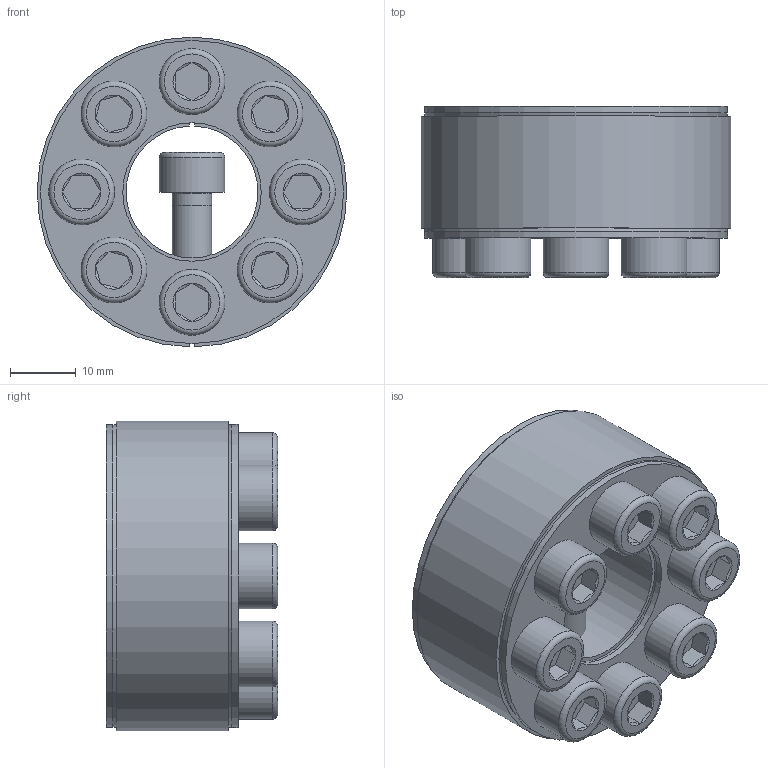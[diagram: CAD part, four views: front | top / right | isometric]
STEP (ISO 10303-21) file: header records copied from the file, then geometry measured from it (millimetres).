
FILE_DESCRIPTION( ( 'Unknown' ), '1' );
FILE_NAME( 'C:/Dokumente und Einstellungen/Sven/Desktop/homepage/cad - homepage/KBS40/KBS 40 - 20 x 47.stp', 'Unknown', ( 'Unknown' ), ( 'Unknown' ), 'XStep 1.0', 'Unknown', ' ' );
FILE_SCHEMA( ( 'automotive_design' ) );
Length unit declared in the file: millimetre
Products named in the file (10): Assem1; KBS 40 20x47; ISO 4762 M6x18; ISO 4762 M6x18-oa0; ISO 4762 M6x18-oa1; ISO 4762 M6x18-oa2; ISO 4762 M6x18-oa3; ISO 4762 M6x18-oa4; ISO 4762 M6x18-oa5; ISO 4762 M6x18-oa6
Bounding box: 47 x 26 x 47 mm (x, y, z)
Surface area: 31247.3 mm2
Topology: 18 solids, 18 shells, 476 faces, 892 edges, 516 vertices
Faces by surface type: plane 232, cone 120, cylinder 92, torus 32
Full cylindrical faces by diameter (mm): 5 x16, 6 x48, 10 x16, 21 x4, 46 x4
Entity records: 5975 total; most frequent: CARTESIAN_POINT 1212, DIRECTION 976, ORIENTED_EDGE 712, AXIS2_PLACEMENT_3D 420, EDGE_LOOP 360, EDGE_CURVE 356, FACE_OUTER_BOUND 298, VERTEX_POINT 240
